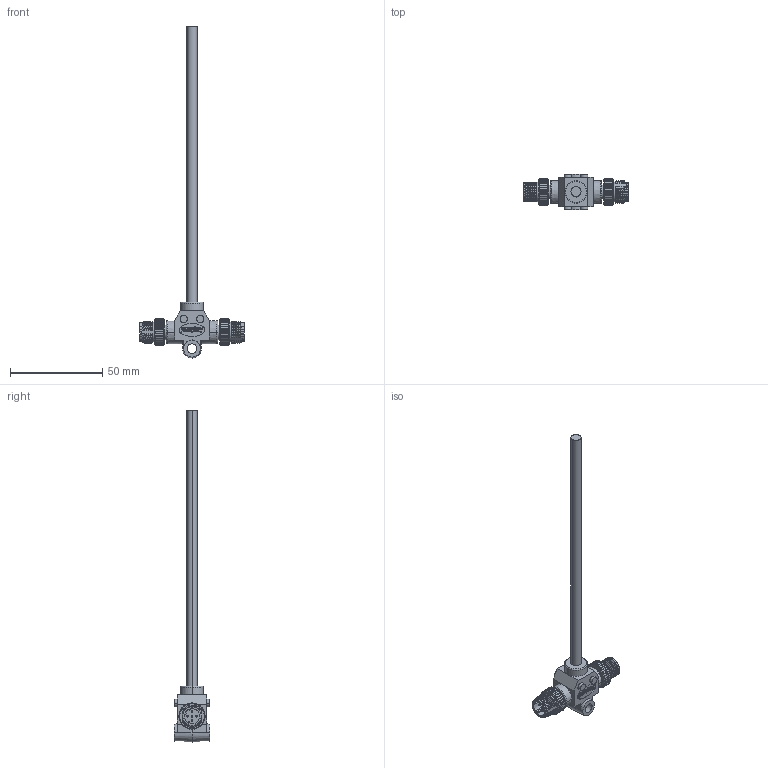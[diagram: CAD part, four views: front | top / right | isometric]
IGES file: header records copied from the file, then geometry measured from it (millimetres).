
Start section:  PTC IGES file: sd-050500-mm0-tsaxx.igs
Global section: file name: sd-050500-mm0-tsaxx.igs; native system: Creo Parametric by Parametric Technology Corporation; preprocessor: 2017170; author: L210039; organization: Unknown; date: 20211005.113108; units: millimetre
Bounding box: 56.8 x 19.5 x 180.32 mm (x, y, z)
Volume: 13490.5 mm3; surface area: 8235.1 mm2
Topology: 1 solids, 1 shells, 1131 faces, 2925 edges, 1828 vertices
Faces by surface type: bspline 599, revolution 452, extrusion 80
